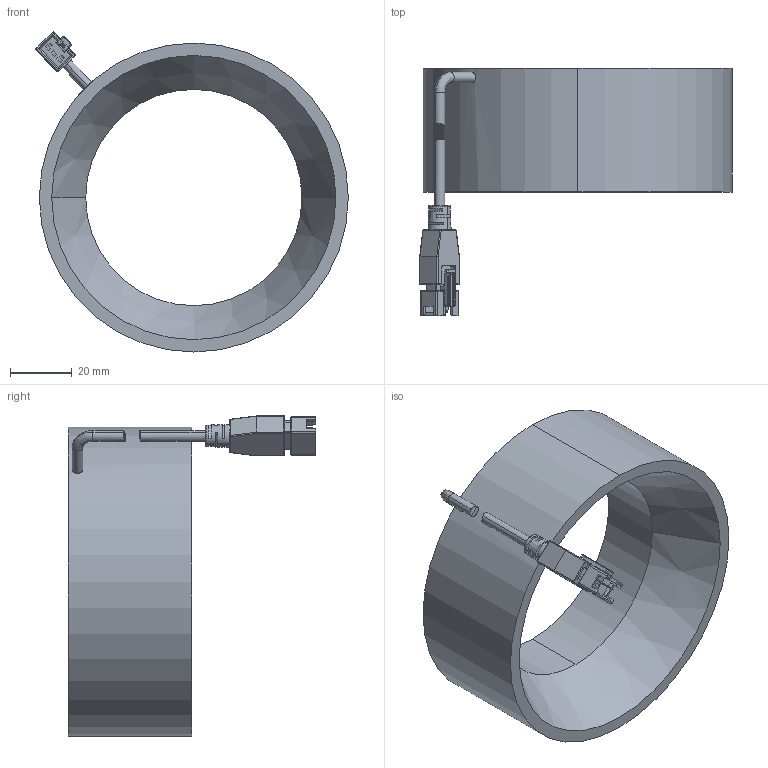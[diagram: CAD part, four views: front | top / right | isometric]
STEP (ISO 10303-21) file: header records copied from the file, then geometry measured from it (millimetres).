
FILE_DESCRIPTION (( 'STEP AP203' ), '1' );
FILE_NAME ('06 LS-LGSH-100-W 光源_3d尺寸图（STP）.STEP', '2019-09-19T09:10:42', ( '' ), ( '' ), 'SwSTEP 2.0', 'SolidWorks 2016', '' );
FILE_SCHEMA (( 'CONFIG_CONTROL_DESIGN' ));
Length unit declared in the file: millimetre
Products named in the file (5): LINE_TOU; 06 LS-LGSH-100-W 光源_3d尺寸图（STP）; assy; 003; BODY_12
Assembly tree (4 placements, depth 3):
  06 LS-LGSH-100-W 光源_3d尺寸图（STP）
    003
    assy
      LINE_TOU
      BODY_12
Bounding box: 101.2 x 80.1 x 103.6 mm (x, y, z)
Volume: 135794.9 mm3; surface area: 30713 mm2
Topology: 3 solids, 3 shells, 249 faces, 623 edges, 384 vertices
Faces by surface type: plane 129, cylinder 80, bspline 20, cone 14, torus 6
Entity records: 8278 total; most frequent: CARTESIAN_POINT 1938, ORIENTED_EDGE 1222, DIRECTION 1205, EDGE_CURVE 611, AXIS2_PLACEMENT_3D 407, VECTOR 391, LINE 391, VERTEX_POINT 384
